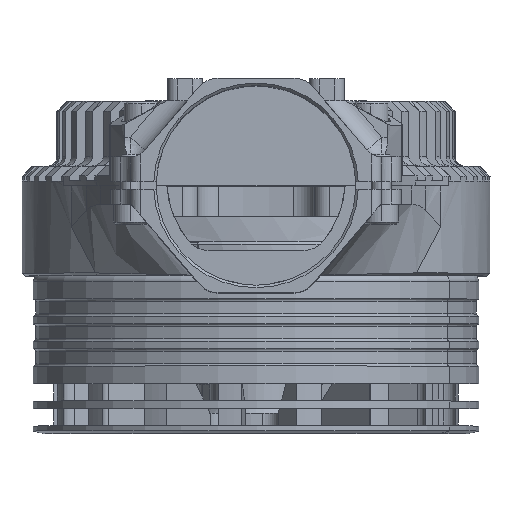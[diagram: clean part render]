
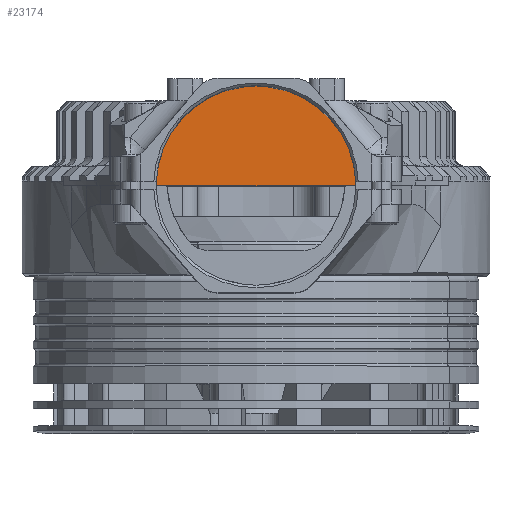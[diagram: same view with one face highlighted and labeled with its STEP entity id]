
A CAD part, top view. The second image highlights one B-rep face of the part: STEP entity #23174.
In plain terms, the highlighted planar face has unit normal (0, 0, 1).
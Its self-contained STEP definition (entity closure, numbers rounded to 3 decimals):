
#3290 = DIRECTION ( 'NONE',  ( 1., 0., 0. ) ) ;
#5291 = DIRECTION ( 'NONE',  ( 1., 0., 0. ) ) ;
#8112 = CARTESIAN_POINT ( 'NONE',  ( 25.497, 80.317, 143.342 ) ) ;
#9187 = VERTEX_POINT ( 'NONE', #75581 ) ;
#11360 = DIRECTION ( 'NONE',  ( 1., 0., 0. ) ) ;
#12102 = PLANE ( 'NONE',  #84802 ) ;
#13648 = LINE ( 'NONE', #29127, #86989 ) ;
#15544 = VERTEX_POINT ( 'NONE', #51390 ) ;
#16761 = EDGE_LOOP ( 'NONE', ( #42837, #84987, #63501, #42931, #20853, #81030 ) ) ;
#17860 = FACE_OUTER_BOUND ( 'NONE', #16761, .T. ) ;
#19747 = DIRECTION ( 'NONE',  ( 0., 1., 0. ) ) ;
#20853 = ORIENTED_EDGE ( 'NONE', *, *, #31706, .T. ) ;
#20926 = DIRECTION ( 'NONE',  ( 1., 0., 0. ) ) ;
#23174 = ADVANCED_FACE ( 'NONE', ( #17860 ), #12102, .T. ) ;
#23348 = DIRECTION ( 'NONE',  ( 1., 0., 0. ) ) ;
#24987 = EDGE_CURVE ( 'NONE', #39219, #67895, #59393, .T. ) ;
#28318 = CARTESIAN_POINT ( 'NONE',  ( 63.467, 79.567, 143.342 ) ) ;
#29127 = CARTESIAN_POINT ( 'NONE',  ( 25.497, 79.567, 143.342 ) ) ;
#30471 = VECTOR ( 'NONE', #38956, 1000. ) ;
#30890 = LINE ( 'NONE', #59142, #39178 ) ;
#31706 = EDGE_CURVE ( 'NONE', #67895, #52879, #55602, .T. ) ;
#38237 = CARTESIAN_POINT ( 'NONE',  ( 45.533, 79.567, 143.342 ) ) ;
#38956 = DIRECTION ( 'NONE',  ( 0., -1., 0. ) ) ;
#39105 = DIRECTION ( 'NONE',  ( 0., 0., 1. ) ) ;
#39178 = VECTOR ( 'NONE', #11360, 1000. ) ;
#39219 = VERTEX_POINT ( 'NONE', #41833 ) ;
#40098 = CARTESIAN_POINT ( 'NONE',  ( 65.569, 79.567, 143.342 ) ) ;
#41833 = CARTESIAN_POINT ( 'NONE',  ( 65.569, 80.317, 143.342 ) ) ;
#42409 = AXIS2_PLACEMENT_3D ( 'NONE', #45517, #72496, #5291 ) ;
#42837 = ORIENTED_EDGE ( 'NONE', *, *, #46794, .T. ) ;
#42931 = ORIENTED_EDGE ( 'NONE', *, *, #24987, .T. ) ;
#44817 = VERTEX_POINT ( 'NONE', #28318 ) ;
#45517 = CARTESIAN_POINT ( 'NONE',  ( 45.533, 79.567, 143.342 ) ) ;
#46794 = EDGE_CURVE ( 'NONE', #15544, #44817, #66511, .T. ) ;
#51390 = CARTESIAN_POINT ( 'NONE',  ( 27.599, 79.567, 143.342 ) ) ;
#52879 = VERTEX_POINT ( 'NONE', #63267 ) ;
#55602 = LINE ( 'NONE', #72539, #30471 ) ;
#59142 = CARTESIAN_POINT ( 'NONE',  ( 60.627, 79.567, 143.342 ) ) ;
#59393 = CIRCLE ( 'NONE', #42409, 20.05 ) ;
#60740 = CARTESIAN_POINT ( 'NONE',  ( 25.497, 79.567, 143.342 ) ) ;
#61575 = VECTOR ( 'NONE', #19747, 1000. ) ;
#63267 = CARTESIAN_POINT ( 'NONE',  ( 25.497, 79.567, 143.342 ) ) ;
#63501 = ORIENTED_EDGE ( 'NONE', *, *, #81485, .T. ) ;
#66511 = LINE ( 'NONE', #60740, #87392 ) ;
#67895 = VERTEX_POINT ( 'NONE', #8112 ) ;
#72496 = DIRECTION ( 'NONE',  ( 0., 0., 1. ) ) ;
#72539 = CARTESIAN_POINT ( 'NONE',  ( 25.497, 80.317, 143.342 ) ) ;
#75581 = CARTESIAN_POINT ( 'NONE',  ( 65.569, 79.567, 143.342 ) ) ;
#76213 = LINE ( 'NONE', #40098, #61575 ) ;
#81030 = ORIENTED_EDGE ( 'NONE', *, *, #81126, .T. ) ;
#81126 = EDGE_CURVE ( 'NONE', #52879, #15544, #13648, .T. ) ;
#81485 = EDGE_CURVE ( 'NONE', #9187, #39219, #76213, .T. ) ;
#82497 = EDGE_CURVE ( 'NONE', #44817, #9187, #30890, .T. ) ;
#84802 = AXIS2_PLACEMENT_3D ( 'NONE', #38237, #39105, #3290 ) ;
#84987 = ORIENTED_EDGE ( 'NONE', *, *, #82497, .T. ) ;
#86989 = VECTOR ( 'NONE', #23348, 1000. ) ;
#87392 = VECTOR ( 'NONE', #20926, 1000. ) ;
